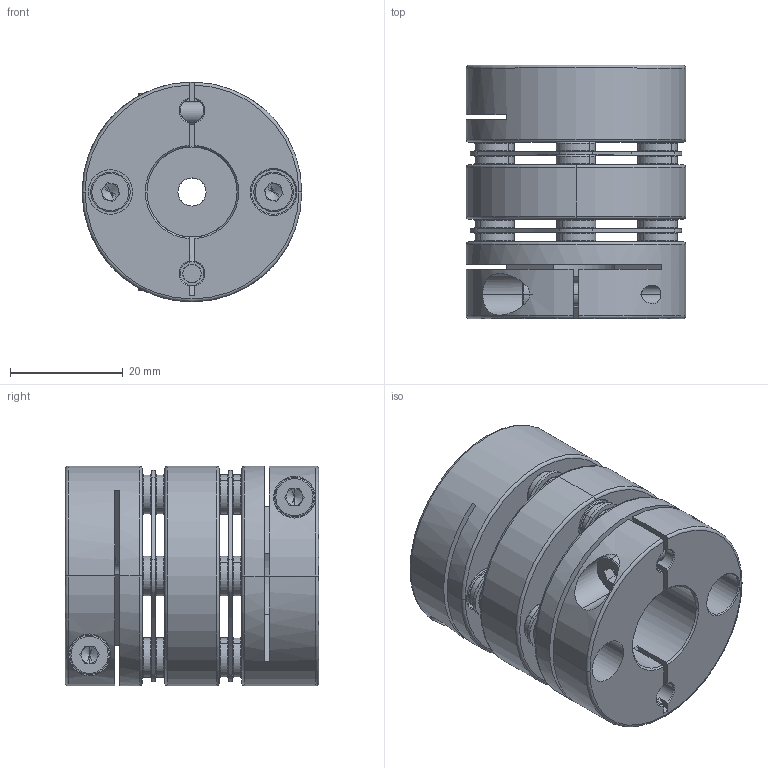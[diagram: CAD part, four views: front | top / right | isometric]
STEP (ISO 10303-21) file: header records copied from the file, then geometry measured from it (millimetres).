
FILE_DESCRIPTION (( 'STEP AP203' ), '1' );
FILE_NAME ('SDWC-39C-5X16_203.STEP', '2013-01-10T02:54:14', ( 'MYCOM' ), ( '' ), 'SwSTEP 2.0', 'SolidWorks 2012', '' );
FILE_SCHEMA (( 'CONFIG_CONTROL_DESIGN' ));
Length unit declared in the file: millimetre
Products named in the file (1): SDWC-39C-5X16_203
Bounding box: 39 x 45 x 39 mm (x, y, z)
Volume: 35734.3 mm3; surface area: 21280.7 mm2
Topology: 1 solids, 35 shells, 760 faces, 1746 edges, 1036 vertices
Faces by surface type: cylinder 250, plane 226, cone 146, torus 138
Entity records: 21993 total; most frequent: DIRECTION 4137, CARTESIAN_POINT 4092, ORIENTED_EDGE 3452, EDGE_CURVE 1726, AXIS2_PLACEMENT_3D 1705, VERTEX_POINT 1036, CIRCLE 944, EDGE_LOOP 862
